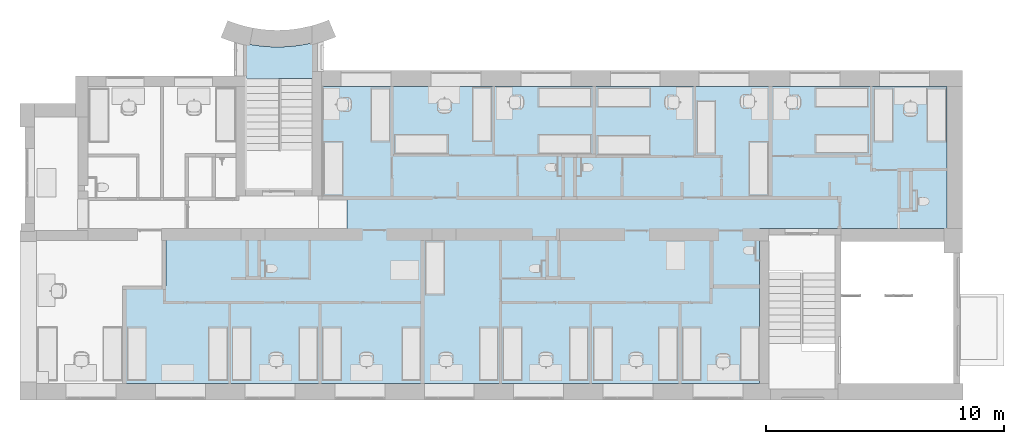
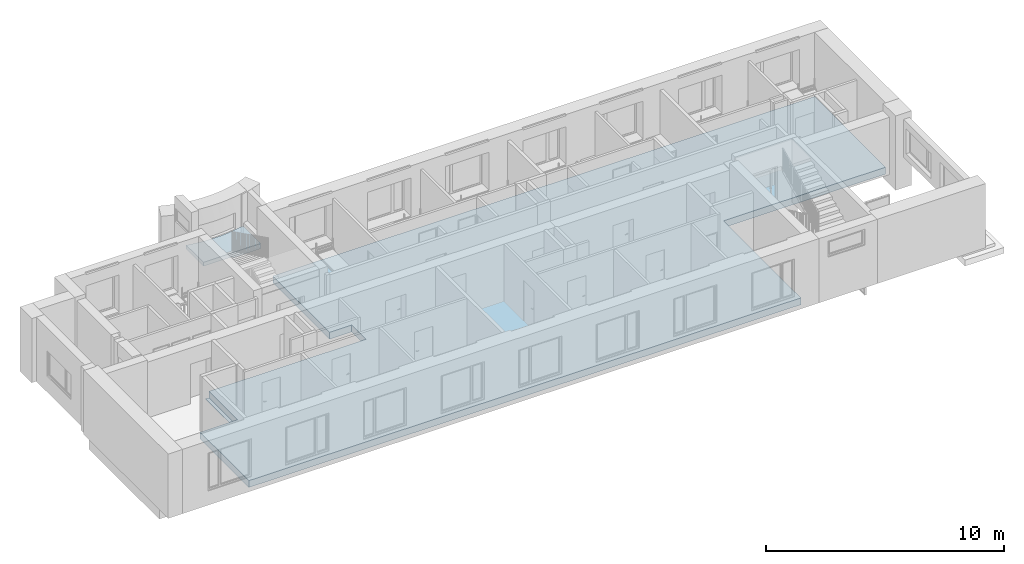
# One storey, part 16 of 46: 2 slabs, 1 element without a shape of its own.
"""IFC2X3 building model written with IfcOpenShell, lengths in millimetres."""

from ifc_helpers import new_model, entity, si_unit, converted_unit, derived_unit, direction, frame, origin, place, context, subcontext, project, spatial, faceted_brep, material, material_list, type_object, element, aggregate, save


model = new_model("IFC2X3")

# Units and contexts
model_context = context("Model", 3, precision=0.01, world=origin(), true_north=direction((6.12303176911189e-17, 1.0)))
body_context = subcontext(model_context, "Body", "Model", "MODEL_VIEW")
ifc_project = project(units=[si_unit("LENGTHUNIT", "METRE", prefix="MILLI"), si_unit("AREAUNIT", "SQUARE_METRE"), si_unit("VOLUMEUNIT", "CUBIC_METRE"), converted_unit("PLANEANGLEUNIT", "DEGREE", entity("IfcRatioMeasure", 0.0174532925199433), si_unit("PLANEANGLEUNIT", "RADIAN"), dimensions=[0, 0, 0, 0, 0, 0, 0]), si_unit("MASSUNIT", "GRAM", prefix="KILO"), derived_unit("MASSDENSITYUNIT", [(si_unit("MASSUNIT", "GRAM", prefix="KILO"), 1), (si_unit("LENGTHUNIT", "METRE"), -3)]), si_unit("TIMEUNIT", "SECOND"), si_unit("FREQUENCYUNIT", "HERTZ"), si_unit("THERMODYNAMICTEMPERATUREUNIT", "DEGREE_CELSIUS"), derived_unit("THERMALTRANSMITTANCEUNIT", [(si_unit("MASSUNIT", "GRAM", prefix="KILO"), 1), (si_unit("THERMODYNAMICTEMPERATUREUNIT", "KELVIN"), -1), (si_unit("TIMEUNIT", "SECOND"), -3)]), derived_unit("VOLUMETRICFLOWRATEUNIT", [(si_unit("LENGTHUNIT", "METRE"), 3), (si_unit("TIMEUNIT", "SECOND"), -1)]), si_unit("ELECTRICCURRENTUNIT", "AMPERE"), si_unit("ELECTRICVOLTAGEUNIT", "VOLT"), si_unit("POWERUNIT", "WATT"), si_unit("FORCEUNIT", "NEWTON", prefix="KILO"), si_unit("ILLUMINANCEUNIT", "LUX"), si_unit("LUMINOUSFLUXUNIT", "LUMEN"), si_unit("LUMINOUSINTENSITYUNIT", "CANDELA"), derived_unit("USERDEFINED", [(si_unit("MASSUNIT", "GRAM", prefix="KILO"), -1), (si_unit("LENGTHUNIT", "METRE"), -2), (si_unit("TIMEUNIT", "SECOND"), 3), (si_unit("LUMINOUSFLUXUNIT", "LUMEN"), 1)]), derived_unit("LINEARVELOCITYUNIT", [(si_unit("LENGTHUNIT", "METRE"), 1), (si_unit("TIMEUNIT", "SECOND"), -1)]), si_unit("PRESSUREUNIT", "PASCAL"), derived_unit("USERDEFINED", [(si_unit("LENGTHUNIT", "METRE"), -2), (si_unit("MASSUNIT", "GRAM", prefix="KILO"), 1), (si_unit("TIMEUNIT", "SECOND"), -2)]), derived_unit("LINEARFORCEUNIT", [(si_unit("MASSUNIT", "GRAM", prefix="KILO"), 1), (si_unit("LENGTHUNIT", "METRE"), 1), (si_unit("TIMEUNIT", "SECOND"), -2), (si_unit("LENGTHUNIT", "METRE"), -1)]), derived_unit("PLANARFORCEUNIT", [(si_unit("MASSUNIT", "GRAM", prefix="KILO"), 1), (si_unit("LENGTHUNIT", "METRE"), 1), (si_unit("TIMEUNIT", "SECOND"), -2), (si_unit("LENGTHUNIT", "METRE"), -2)])], contexts=[model_context])

# Site, building, storey
site_placement = place(None, origin())
site = spatial("IfcSite", under=ifc_project, at=site_placement, Name="Default", CompositionType="ELEMENT")
building_placement = place(site_placement, origin())
building = spatial("IfcBuilding", under=site, at=building_placement, Name="SMA ARH", CompositionType="ELEMENT")
storey_placement = place(building_placement, origin())
storey = spatial("IfcBuildingStorey", under=building, at=storey_placement, Name="1 Korrus", CompositionType="ELEMENT", Elevation=0.0)

# Stair, slab
stair_placement = place(storey_placement, origin())
stair = element("IfcStair", 1, at=stair_placement, inside=storey, Name="Cast-In-Place Stair:Stair", ObjectType="Cast-In-Place Stair:Cast-In-Place Stair", ShapeType="STRAIGHT_RUN_STAIR")
slab_type_1 = type_object("IfcSlabType", Name="Monolithic Landing:300 mm Thickness", PredefinedType="LANDING")
slab_1_placement = place(stair_placement, frame((8828.40472776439, 12840.3057240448, 0.0)))
slab_1 = element("IfcSlab", 2, at=slab_1_placement, type_object=slab_type_1, Name="Cast-In-Place Stair:Stair:1067786 Landing 1", ObjectType="Monolithic Landing:300 mm Thickness", PredefinedType="LANDING", context=body_context, shape_type="Brep", body=[
    faceted_brep([(277.486808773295, 1405.55783367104, 1600.0), (1.59527223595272, 1458.06819169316, 1600.0), (1.59527223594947, 0.0, 1600.0), (1426.59527223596, 0.0, 1600.0), (2786.595272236, 0.0, 1600.0), (2786.595272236, 128.544768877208, 1600.0), (2786.59527223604, 1495.65424673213, 1600.0), (2512.2213086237, 1435.71756577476, 1600.0), (2235.4386355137, 1388.12734095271, 1600.0), (1956.80253742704, 1352.97904831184, 1600.0), (1676.8720172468, 1330.34320275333, 1600.0), (1396.20867474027, 1320.26521656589, 1600.0), (1115.37557987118, 1322.76530831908, 1600.0), (834.936143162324, 1337.83846230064, 1600.0), (555.452985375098, 1365.454438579, 1600.0), (1.59527223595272, 1458.06819169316, 1400.0), (1.59527223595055, 0.0, 1400.0), (1426.59527223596, 0.0, 1400.0), (1426.59527223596, 0.0, 1334.16949715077), (2786.595272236, 0.0, 1334.16949715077), (2786.595272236, 128.544768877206, 1400.0), (2786.595272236, 1495.65424673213, 1400.0), (2512.22130862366, 1435.71756577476, 1400.0), (1956.80253742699, 1352.97904831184, 1400.0), (1676.87201724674, 1330.34320275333, 1400.0), (2235.43863551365, 1388.12734095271, 1400.0), (1396.20867474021, 1320.26521656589, 1400.0), (1115.37557987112, 1322.76530831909, 1400.0), (834.93614316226, 1337.83846230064, 1400.0), (277.486808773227, 1405.55783367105, 1400.0), (555.452985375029, 1365.454438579, 1400.0), (1426.59527223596, 128.544768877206, 1400.0)], [[[0, 1, 2, 3, 4, 5, 6, 7, 8, 9, 10, 11, 12, 13, 14]], [[2, 1, 15, 16]], [[3, 2, 16, 17, 18, 19, 4]], [[5, 4, 19, 20, 21, 6]], [[21, 22, 7, 6]], [[23, 24, 10, 9]], [[25, 23, 9, 8]], [[22, 25, 8, 7]], [[26, 11, 10, 24]], [[27, 28, 13, 12]], [[29, 15, 1, 0]], [[30, 29, 0, 14]], [[28, 30, 14, 13]], [[26, 27, 12, 11]], [[27, 26, 24, 23, 25, 22, 21, 20, 31, 17, 16, 15, 29, 30, 28]], [[18, 31, 20, 19]], [[18, 17, 31]]]),
])
aggregate(stair, [slab_1])

# Slab
ifc_material_1 = material(Name="EST. Betoon. Armeeritud. Kohtvalu")
ifc_material_2 = material(Name="EST. Soojustus. Mineraalvill. Default")
ifc_material_3 = material(Name="EST. Puistematerjal. Kergkruus")
ifc_material_4 = material(Name="EST. Betoon. Armeeritud. Monteeritav(1)")
ifc_material_list = material_list([ifc_material_1, ifc_material_2, ifc_material_3, ifc_material_4])
slab_type_2 = type_object("IfcSlabType", Name="Floor:VL-00_R/B 370mm 1 k 2", PredefinedType="FLOOR")
slab_2_placement = place(storey_placement, origin())
element("IfcSlab", 3, at=slab_2_placement, inside=storey, type_object=slab_type_2, material=ifc_material_list, Name="Floor:VL-00_R/B 370mm 1 k 2", ObjectType="Floor:VL-00_R/B 370mm 1 k 2", PredefinedType="FLOOR", context=body_context, shape_type="Brep", body=[
    faceted_brep([(12000.0, 12500.0, -350.0), (38235.0, 12500.0, -350.0), (38315.0, 12500.0, -350.0), (38315.0, 6520.0, -350.0), (30435.0, 6520.0, -350.0), (30435.0, 0.0, -350.0), (3623.25000000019, 0.0, -350.0), (3623.2500000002, 4106.74999999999, -350.0), (5282.50000000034, 4106.74999999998, -350.0), (5282.50000000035, 6010.0, -350.0), (5282.50000000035, 6520.0, -350.0), (13071.2500000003, 6520.0, -350.0), (13071.2500000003, 7720.0, -350.0), (12000.0, 7720.0, -350.0), (12000.0, 7870.0, -350.0), (12000.0, 12435.0, -350.0), (38315.0, 12500.0, 0.0), (37580.0, 12500.0, 0.0), (35480.0, 12500.0, 0.0), (12000.0, 12500.0, 0.0), (12000.0, 7875.0, 0.0), (12000.0, 7870.0, 0.0), (12000.0, 7720.0, 0.0), (13071.2500000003, 7720.0, 0.0), (13071.2500000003, 6520.0, 0.0), (11871.2500000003, 6520.0, 0.0), (9610.0, 6520.0, 0.0), (8610.0, 6520.0, 0.0), (5445.0, 6520.0, 0.0), (5445.0, 6010.0, 0.0), (5445.0, 4106.74999999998, 0.0), (3623.2500000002, 4106.74999999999, 0.0), (3623.25000000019, 0.0, 0.0), (30435.0, 0.0, 0.0), (30435.0, 6520.0, 0.0), (38315.0, 6520.0, 0.0), (12000.0, 12500.0, -310.0), (3623.25000000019, 0.0, -330.0), (5282.50000000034, 4106.74999999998, -330.0), (5282.50000000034, 6010.0, -330.0), (5282.50000000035, 6520.0, -330.0), (5445.0, 6520.0, -330.0), (12000.0, 7720.0, -330.0), (12000.0, 7870.0, -330.0), (5445.0, 4106.74999999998, -330.0), (3623.2500000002, 4106.74999999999, -330.0)], [[[0, 1, 2, 3, 4, 5, 6, 7, 8, 9, 10, 11, 12, 13, 14, 15]], [[16, 17, 18, 19, 20, 21, 22, 23, 24, 25, 26, 27, 28, 29, 30, 31, 32, 33, 34, 35]], [[2, 1, 0, 36, 19, 18, 17, 16]], [[3, 2, 16, 35]], [[4, 3, 35, 34]], [[5, 4, 34, 33]], [[6, 5, 33, 32, 37]], [[10, 9, 8, 38, 39, 40]], [[11, 10, 40, 41, 28, 27, 26, 25, 24]], [[12, 11, 24, 23]], [[13, 12, 23, 22, 42]], [[14, 13, 42, 22, 21, 43]], [[0, 15, 14, 43, 21, 20, 19, 36]], [[44, 41, 40, 39, 38]], [[41, 44, 30, 29, 28]], [[31, 45, 7, 6, 37, 32]], [[8, 7, 45, 31, 30, 44, 38]]]),
])

save(model, "model.ifc")
